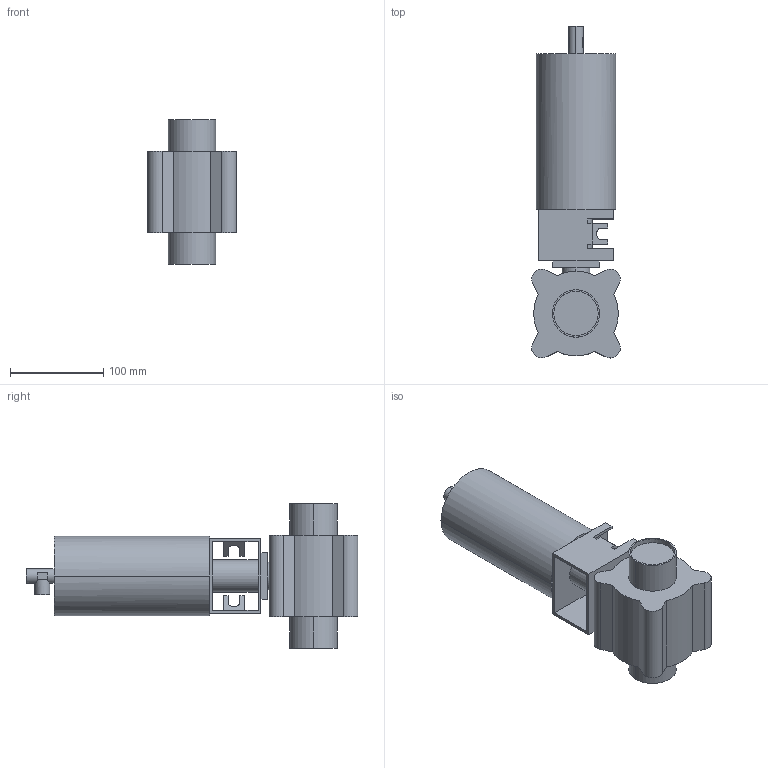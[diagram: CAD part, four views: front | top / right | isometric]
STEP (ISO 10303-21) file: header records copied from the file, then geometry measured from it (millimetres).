
FILE_DESCRIPTION(('Creo Elements/Direct Modeling STEP Export'),'2;1');
FILE_NAME('BLV1-2T-NC-12S.stp','2019-05-10T 8:21:47',(''),(''),'Creo Elements/Direct Modeling STEP processor for AP214 (Solid Model)','Creo Elements/Direct Modeling 19.0F 14-Feb-2017 (C) Parametric Technology GmbH','');
FILE_SCHEMA(('AUTOMOTIVE_DESIGN { 1 0 10303 214 1 1 1 1 }'));
Length unit declared in the file: millimetre
Products named in the file (2): BLV1-2T-NC-12S
Assembly tree (1 placements, depth 2):
  BLV1-2T-NC-12S
    BLV1-2T-NC-12S
Bounding box: 95.12 x 356.06 x 155 mm (x, y, z)
Volume: 1899873.8 mm3; surface area: 154390.9 mm2
Topology: 1 solids, 1 shells, 108 faces, 282 edges, 183 vertices
Faces by surface type: plane 80, cylinder 28
Entity records: 3113 total; most frequent: CARTESIAN_POINT 584, ORIENTED_EDGE 564, DIRECTION 461, EDGE_CURVE 282, VECTOR 187, LINE 187, VERTEX_POINT 183, AXIS2_PLACEMENT_3D 137
